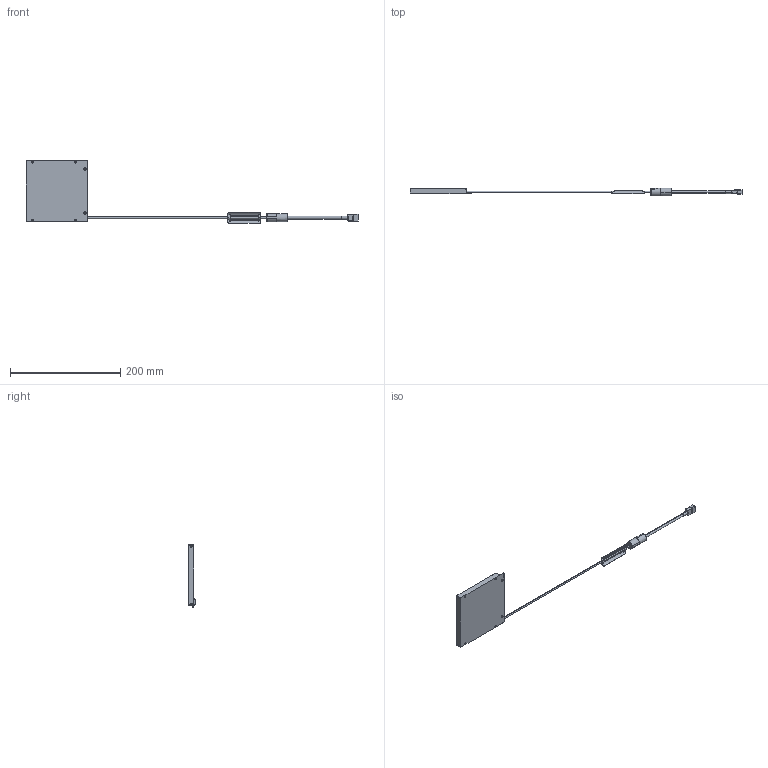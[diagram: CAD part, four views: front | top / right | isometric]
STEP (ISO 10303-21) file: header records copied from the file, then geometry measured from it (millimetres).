
FILE_DESCRIPTION (( 'STEP AP203' ), '1' );
FILE_NAME ('MDBC-C#100_A09321A0100101A-004.STEP', '2013-12-20T06:50:03', ( 'SCHOTT' ), ( 'SCHOTT' ), 'SwSTEP 2.0', 'SolidWorks 2011', '' );
FILE_SCHEMA (( 'CONFIG_CONTROL_DESIGN' ));
Length unit declared in the file: millimetre
Products named in the file (1): MDBC-C#100_A09321A0100101A-004
Bounding box: 602 x 14.1 x 113.35 mm (x, y, z)
Volume: 126179.2 mm3; surface area: 40069.2 mm2
Topology: 2 solids, 14 shells, 586 faces, 1840 edges, 1324 vertices
Faces by surface type: plane 307, cylinder 212, cone 52, bspline 8, sphere 4, torus 3
Entity records: 26968 total; most frequent: CARTESIAN_POINT 10485, ORIENTED_EDGE 3672, DIRECTION 3120, EDGE_CURVE 1836, VERTEX_POINT 1324, AXIS2_PLACEMENT_3D 1044, LINE 1032, VECTOR 1032
